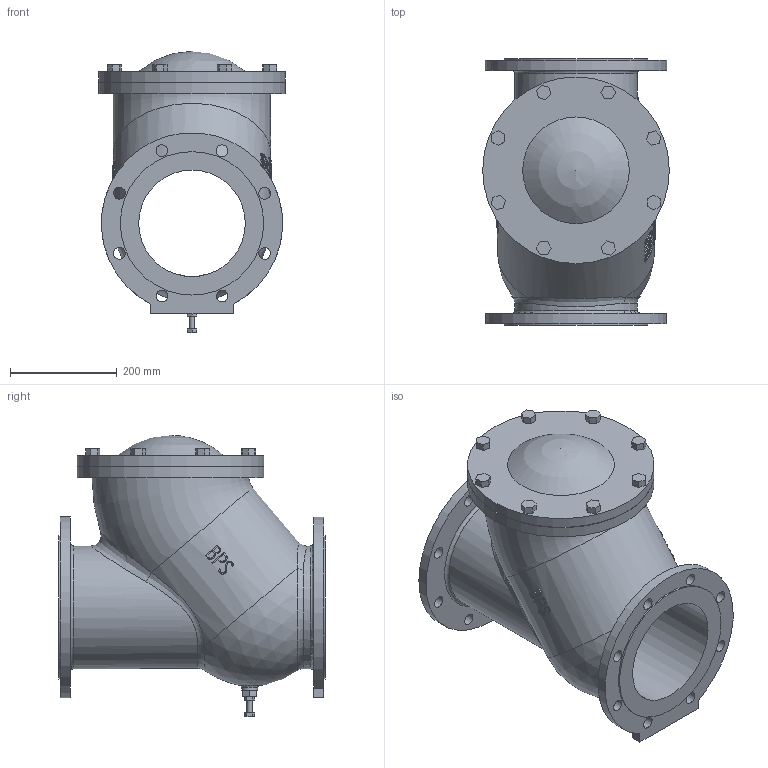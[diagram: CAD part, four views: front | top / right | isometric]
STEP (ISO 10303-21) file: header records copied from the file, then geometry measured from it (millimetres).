
FILE_DESCRIPTION( ( 'Unknown' ), '1' );
FILE_NAME( 'J:/Muud/ROOTSI BPS 3D vidinad/Kuuliga tagasiloogiklapid/STEP formaat/BPS 6538200 ball check valve DN200.stp', 'Unknown', ( 'Unknown' ), ( 'Unknown' ), 'PSStep 10.1', 'Unknown', ' ' );
FILE_SCHEMA( ( 'AUTOMOTIVE_DESIGN { 1 0 10303 214 1 1 1 1 }' ) );
Length unit declared in the file: millimetre
Products named in the file (2): 1; 2
Bounding box: 350 x 500 x 527.68 mm (x, y, z)
Volume: 25872112.2 mm3; surface area: 1428888.1 mm2
Topology: 2 solids, 2 shells, 326 faces, 812 edges, 542 vertices
Faces by surface type: plane 185, cylinder 72, bspline 62, torus 5, sphere 2
Full cylindrical faces by diameter (mm): 10 x1, 17 x16, 17.294 x1, 22 x16, 30 x1, 200 x1, 230 x2, 269 x2, 340 x1, 350 x2
Entity records: 29822 total; most frequent: CARTESIAN_POINT 20576, ORIENTED_EDGE 1450, DIRECTION 976, EDGE_CURVE 725, VERTEX_POINT 512, EDGE_LOOP 485, B_SPLINE_CURVE_WITH_KNOTS 393, FACE_OUTER_BOUND 381
